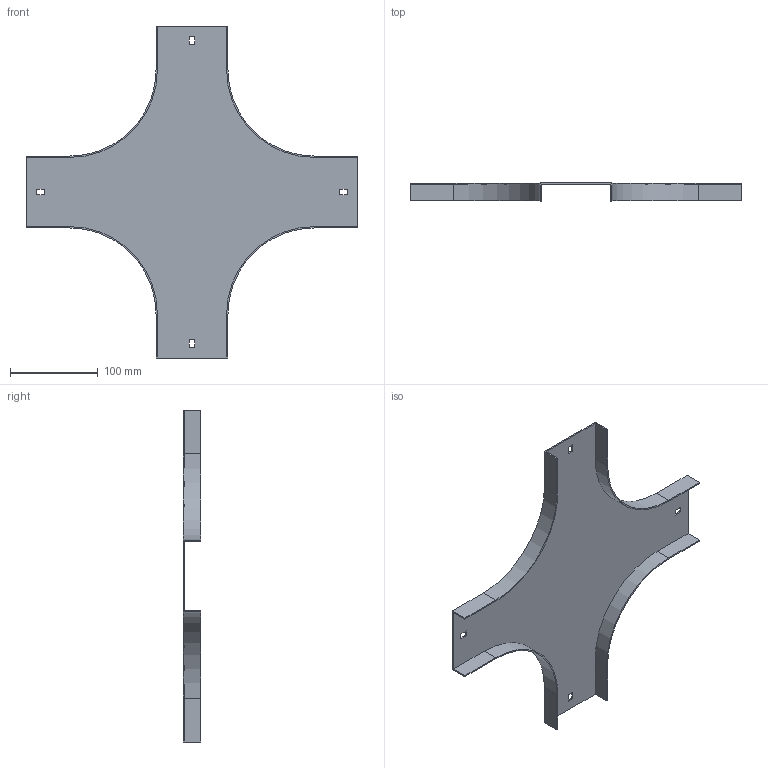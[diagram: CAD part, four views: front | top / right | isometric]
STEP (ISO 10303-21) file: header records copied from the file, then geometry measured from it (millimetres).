
FILE_DESCRIPTION (( 'STEP AP214' ), '1' );
FILE_NAME ('17N1R075.step', '2025-02-21T09:52:30', ( '' ), ( '' ), 'SwSTEP 2.0', 'SolidWorks 2023', '' );
FILE_SCHEMA (( 'AUTOMOTIVE_DESIGN' ));
Length unit declared in the file: millimetre
Products named in the file (1): 17N1R075
Bounding box: 379 x 20 x 379 mm (x, y, z)
Volume: 123694.8 mm3; surface area: 167354.7 mm2
Topology: 1 solids, 1 shells, 50 faces, 144 edges, 96 vertices
Faces by surface type: plane 42, cylinder 8
Entity records: 1663 total; most frequent: CARTESIAN_POINT 291, ORIENTED_EDGE 288, DIRECTION 262, EDGE_CURVE 144, VECTOR 128, LINE 128, VERTEX_POINT 96, AXIS2_PLACEMENT_3D 67
